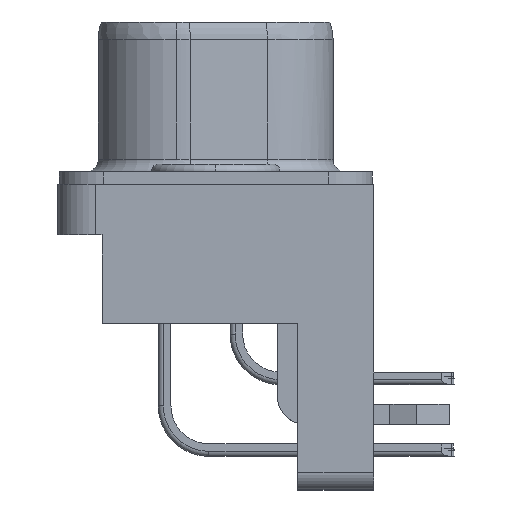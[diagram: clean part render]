
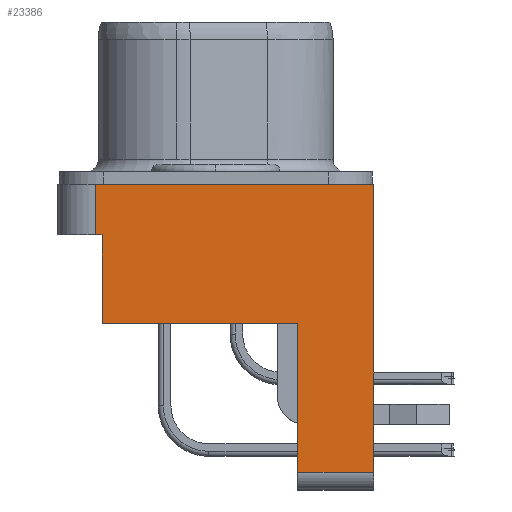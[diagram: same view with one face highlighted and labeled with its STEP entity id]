
A CAD part, left-side view. The second image highlights one B-rep face of the part: STEP entity #23386.
In plain terms, the highlighted planar face has unit normal (-1, 0, 0).
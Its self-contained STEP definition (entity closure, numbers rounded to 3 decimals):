
#148 = CARTESIAN_POINT ( 'NONE',  ( -26.5, 4.75, -5.5 ) ) ;
#828 = VECTOR ( 'NONE', #25162, 1000. ) ;
#1180 = PLANE ( 'NONE',  #13827 ) ;
#1599 = LINE ( 'NONE', #17618, #32264 ) ;
#1985 = ORIENTED_EDGE ( 'NONE', *, *, #31701, .T. ) ;
#3223 = EDGE_LOOP ( 'NONE', ( #32413, #43571, #24400, #18069, #45674, #26200, #1985, #35611 ) ) ;
#3428 = EDGE_CURVE ( 'NONE', #14540, #17148, #1599, .T. ) ;
#3749 = CARTESIAN_POINT ( 'NONE',  ( -26.5, -6.25, -11.4 ) ) ;
#5811 = VERTEX_POINT ( 'NONE', #12716 ) ;
#6751 = CARTESIAN_POINT ( 'NONE',  ( -26.5, 7.5, -2. ) ) ;
#6951 = CARTESIAN_POINT ( 'NONE',  ( -26.5, 6.25, -5.5 ) ) ;
#7926 = VERTEX_POINT ( 'NONE', #19393 ) ;
#8516 = DIRECTION ( 'NONE',  ( 0., 0., 1. ) ) ;
#9001 = DIRECTION ( 'NONE',  ( 0., 0., 1. ) ) ;
#10993 = LINE ( 'NONE', #3749, #19521 ) ;
#11448 = EDGE_CURVE ( 'NONE', #42612, #7926, #14407, .T. ) ;
#11562 = EDGE_CURVE ( 'NONE', #42612, #14540, #10993, .T. ) ;
#12716 = CARTESIAN_POINT ( 'NONE',  ( -26.5, 4.75, 0. ) ) ;
#13323 = LINE ( 'NONE', #37892, #25253 ) ;
#13328 = DIRECTION ( 'NONE',  ( 0., 0., 1. ) ) ;
#13827 = AXIS2_PLACEMENT_3D ( 'NONE', #37574, #41056, #19288 ) ;
#14407 = LINE ( 'NONE', #29825, #34911 ) ;
#14540 = VERTEX_POINT ( 'NONE', #35239 ) ;
#14618 = DIRECTION ( 'NONE',  ( 0., 0., -1. ) ) ;
#15578 = LINE ( 'NONE', #148, #21267 ) ;
#16519 = EDGE_CURVE ( 'NONE', #5811, #17148, #13323, .T. ) ;
#17148 = VERTEX_POINT ( 'NONE', #39093 ) ;
#17453 = DIRECTION ( 'NONE',  ( 0., -1., 0. ) ) ;
#17618 = CARTESIAN_POINT ( 'NONE',  ( -26.5, -6.25, -5.5 ) ) ;
#18069 = ORIENTED_EDGE ( 'NONE', *, *, #3428, .T. ) ;
#18502 = FACE_OUTER_BOUND ( 'NONE', #3223, .T. ) ;
#19234 = EDGE_CURVE ( 'NONE', #29163, #45050, #26961, .T. ) ;
#19288 = DIRECTION ( 'NONE',  ( 0., 0., 1. ) ) ;
#19393 = CARTESIAN_POINT ( 'NONE',  ( -26.5, -3.25, -5.5 ) ) ;
#19521 = VECTOR ( 'NONE', #32368, 1000. ) ;
#19674 = EDGE_CURVE ( 'NONE', #5811, #34216, #15578, .T. ) ;
#21267 = VECTOR ( 'NONE', #14618, 1000. ) ;
#22994 = LINE ( 'NONE', #6751, #828 ) ;
#23386 = ADVANCED_FACE ( 'NONE', ( #18502 ), #1180, .T. ) ;
#24400 = ORIENTED_EDGE ( 'NONE', *, *, #11562, .T. ) ;
#25162 = DIRECTION ( 'NONE',  ( 0., -1., 0. ) ) ;
#25253 = VECTOR ( 'NONE', #42000, 1000. ) ;
#26200 = ORIENTED_EDGE ( 'NONE', *, *, #19674, .T. ) ;
#26961 = LINE ( 'NONE', #27120, #45167 ) ;
#27120 = CARTESIAN_POINT ( 'NONE',  ( -26.5, 4.5, -5.5 ) ) ;
#27994 = CARTESIAN_POINT ( 'NONE',  ( -26.5, 4.75, -2. ) ) ;
#28467 = CARTESIAN_POINT ( 'NONE',  ( -26.5, -3.25, -11.4 ) ) ;
#29092 = CARTESIAN_POINT ( 'NONE',  ( -26.5, 4.5, -2. ) ) ;
#29163 = VERTEX_POINT ( 'NONE', #40359 ) ;
#29825 = CARTESIAN_POINT ( 'NONE',  ( -26.5, -3.25, -5.5 ) ) ;
#31087 = EDGE_CURVE ( 'NONE', #29163, #7926, #40151, .T. ) ;
#31701 = EDGE_CURVE ( 'NONE', #34216, #45050, #22994, .T. ) ;
#32264 = VECTOR ( 'NONE', #13328, 1000. ) ;
#32368 = DIRECTION ( 'NONE',  ( 0., -1., 0. ) ) ;
#32413 = ORIENTED_EDGE ( 'NONE', *, *, #31087, .T. ) ;
#34216 = VERTEX_POINT ( 'NONE', #27994 ) ;
#34911 = VECTOR ( 'NONE', #8516, 1000. ) ;
#35239 = CARTESIAN_POINT ( 'NONE',  ( -26.5, -6.25, -11.4 ) ) ;
#35611 = ORIENTED_EDGE ( 'NONE', *, *, #19234, .F. ) ;
#37574 = CARTESIAN_POINT ( 'NONE',  ( -26.5, 6.25, -5.5 ) ) ;
#37892 = CARTESIAN_POINT ( 'NONE',  ( -26.5, 6.25, 0. ) ) ;
#39093 = CARTESIAN_POINT ( 'NONE',  ( -26.5, -6.25, 0. ) ) ;
#40151 = LINE ( 'NONE', #6951, #43544 ) ;
#40359 = CARTESIAN_POINT ( 'NONE',  ( -26.5, 4.5, -5.5 ) ) ;
#41056 = DIRECTION ( 'NONE',  ( -1., 0., 0. ) ) ;
#42000 = DIRECTION ( 'NONE',  ( 0., -1., 0. ) ) ;
#42612 = VERTEX_POINT ( 'NONE', #28467 ) ;
#43544 = VECTOR ( 'NONE', #17453, 1000. ) ;
#43571 = ORIENTED_EDGE ( 'NONE', *, *, #11448, .F. ) ;
#45050 = VERTEX_POINT ( 'NONE', #29092 ) ;
#45167 = VECTOR ( 'NONE', #9001, 1000. ) ;
#45674 = ORIENTED_EDGE ( 'NONE', *, *, #16519, .F. ) ;
